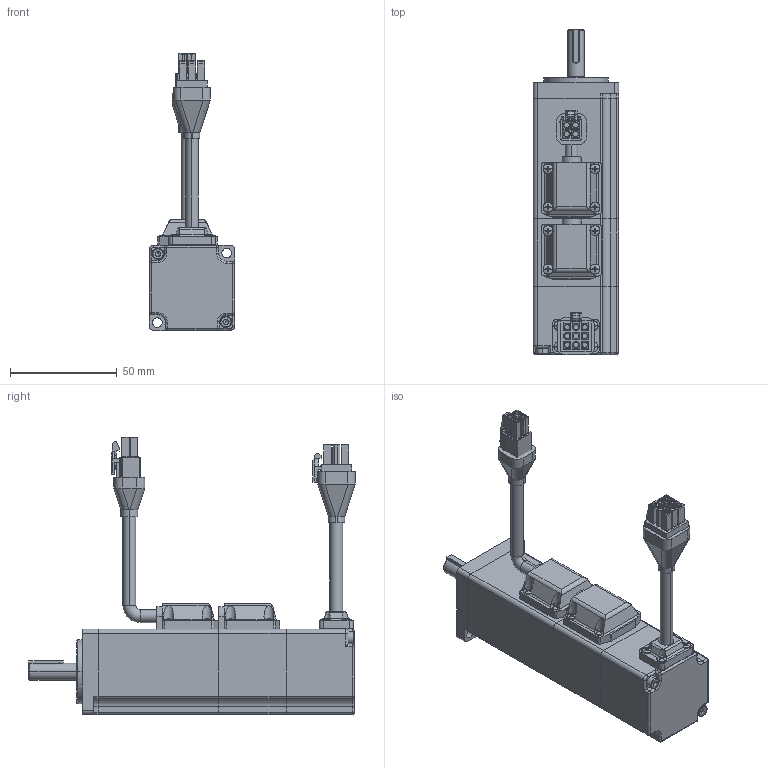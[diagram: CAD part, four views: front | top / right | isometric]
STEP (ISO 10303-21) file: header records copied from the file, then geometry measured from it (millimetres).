
FILE_DESCRIPTION((''),'2;1');
FILE_NAME('R40-100W_BRAKE_ASM','2018-11-26T',('JIANGFEI6'),(''),'CREO PARAMETRIC BY PTC INC, 2015480','CREO PARAMETRIC BY PTC INC, 2015480','');
FILE_SCHEMA(('CONFIG_CONTROL_DESIGN'));
Length unit declared in the file: millimetre
Products named in the file (24): __-2223; _____-5955; ______-7729; _____-14993; ___-15441; M2_5X5; ______-17185; __-17893; __2_5; M2_5X4; ___-21115; M3X10; ____-23273; __-26563; ______-29031; ________; ______-35191; _______; M3X28; ___-38379; ROLLING_BEARINGS_609_GB_276-94; R40_; ____-45877; R40-100W_BRAKE_ASM
Assembly tree (39 placements, depth 2):
  R40-100W_BRAKE_ASM
    __-2223
    _____-5955  x2
    ______-7729  x2
    _____-14993
    ___-15441  x2
    M2_5X5  x12
    ______-17185
    __-17893
    __2_5
    M2_5X4
    ___-21115
    M3X10  x2
    ____-23273
    __-26563
    ______-29031
    ________
    ______-35191
    _______
    M3X28  x2
    ___-38379
    ROLLING_BEARINGS_609_GB_276-94
    R40_
    ____-45877
Bounding box: 40 x 152.87 x 129.8 mm (x, y, z)
Volume: 58479.4 mm3; surface area: 77904.9 mm2
Topology: 42 solids, 69 shells, 1703 faces, 4743 edges, 3097 vertices
Faces by surface type: plane 801, cylinder 629, cone 99, torus 92, sphere 64, bspline 18
Entity records: 42957 total; most frequent: CARTESIAN_POINT 10929, DIRECTION 6628, ORIENTED_EDGE 6371, EDGE_CURVE 3399, AXIS2_PLACEMENT_3D 2410, VERTEX_POINT 2259, VECTOR 1808, LINE 1808
